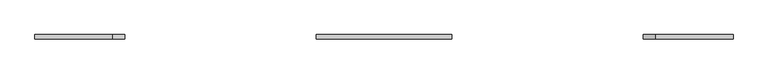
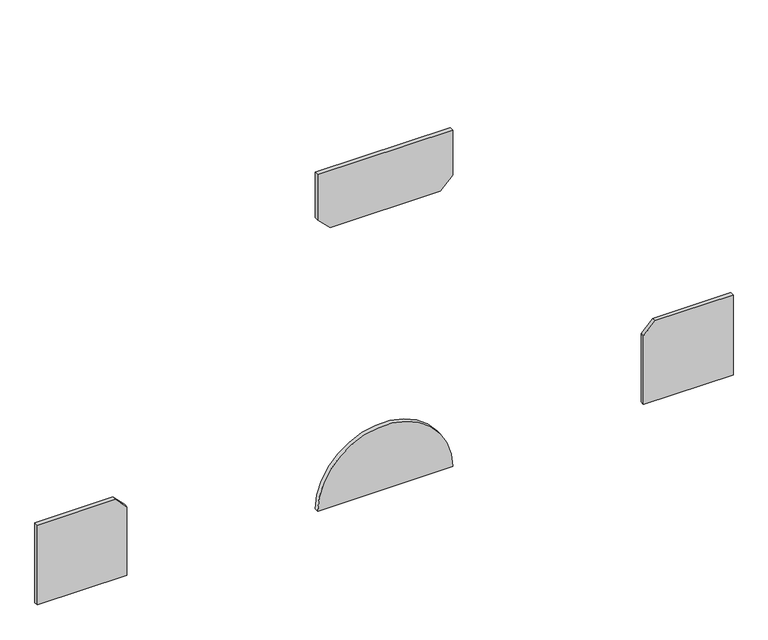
"""IFC4 building model written with IfcOpenShell, lengths in millimetres: plate geometry, GUSSET PLATE 1 : GUSSET PLATE 1."""

from ifc_helpers import new_model, si_unit, point, frame, frame_2d, origin, place, context, project, spatial, polyline, circle_curve, trimmed, segment, composite_curve, outline, extrude, source, transform, mapped, element, save


def plate_3ad3456b(model_context):
    return source(origin(), model_context, "Body", "SweptSolid", [
        extrude(outline(polyline([(5419.6, 14471.575), (4419.6, 14471.575), (4419.6, 15532.9963562), (5278.1786438, 15532.9963562), (5419.6, 15391.575), (5419.6, 14471.575)])), frame((0.0, 16894.575, 0.0), z_axis=(0.0, 1.0, 0.0), x_axis=(0.0, 0.0, 1.0)), (0.0, 0.0, 1.0), 50.0),
        extrude(outline(polyline([(5419.6, 22710.575), (5419.6, 21790.575), (5278.1786438, 21649.1536438), (4419.6, 21649.1536438), (4419.6, 22710.575), (5419.6, 22710.575)])), frame((0.0, 16894.575, 0.0), z_axis=(0.0, 1.0, 0.0), x_axis=(0.0, 0.0, 1.0)), (0.0, 0.0, 1.0), 50.0),
        extrude(outline(composite_curve([segment(polyline([(4432.3, 17791.075), (4432.3, 19391.075)]), True, "CONTINUOUS"), segment(trimmed(circle_curve(frame_2d((4432.3, 18591.075)), 800.0), [point((4432.3, 19391.075))], [point((4432.3, 17791.075))], False, "CARTESIAN"), True, "CONTINUOUS")], self_intersect=False)), frame((0.0, 16894.575, 0.0), z_axis=(0.0, 1.0, 0.0), x_axis=(0.0, 0.0, 1.0)), (0.0, 0.0, 1.0), 50.0),
        extrude(outline(polyline([(8648.1, 17791.075), (8083.1, 17791.075), (7934.607576, 17939.567424), (7934.607576, 19242.582576), (8083.1, 19391.075), (8648.1, 19391.075), (8648.1, 17791.075)])), frame((0.0, 16894.575, 0.0), z_axis=(0.0, 1.0, 0.0), x_axis=(0.0, 0.0, 1.0)), (0.0, 0.0, 1.0), 50.0),
    ])


if __name__ == "__main__":
    model = new_model("IFC4")
    model_context = context("Model", 3, world=origin())
    ifc_project = project(units=[si_unit("LENGTHUNIT", "METRE", prefix="MILLI")], contexts=[model_context])
    site = spatial("IfcSite", under=ifc_project)
    building = spatial("IfcBuilding", under=site)
    placement = place(None, origin())
    plate_shape = plate_3ad3456b(model_context)
    element("IfcPlate", 1, ObjectType="GUSSET PLATE 1 : GUSSET PLATE 1", at=placement, inside=building, context=model_context, shape_type="MappedRepresentation", body=[
        mapped(plate_shape, transform((0.0, 0.0, 0.0), x_axis=(1.0, 0.0, 0.0), y_axis=(0.0, 1.0, 0.0), z_axis=(0.0, 0.0, 1.0))),
    ])
    save(model, "model.ifc")
